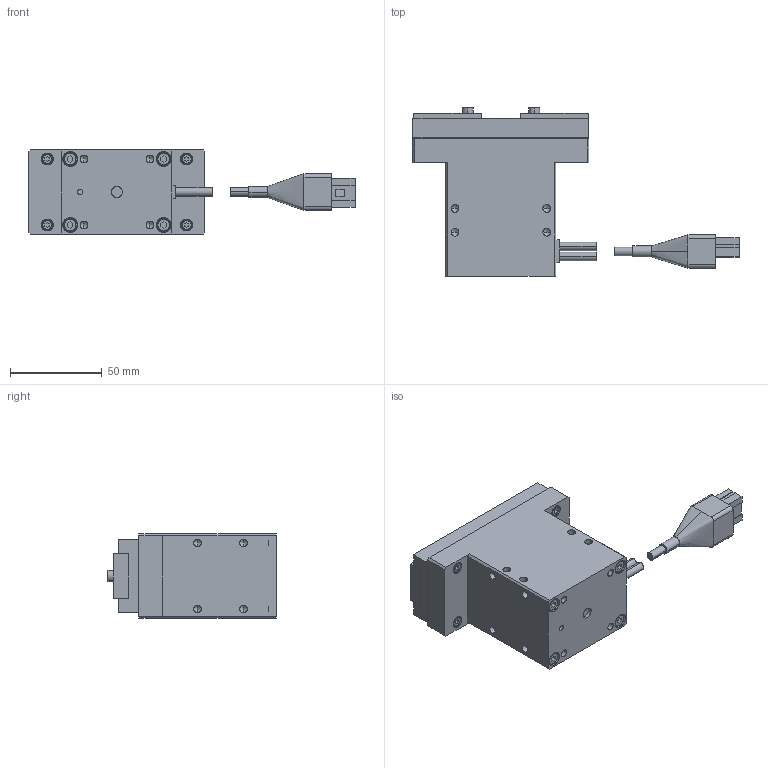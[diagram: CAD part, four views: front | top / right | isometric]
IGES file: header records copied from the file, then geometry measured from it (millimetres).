
Start section: SolidWorks IGES file using analytic representation for surfaces
Global section: file name: G:\SW2007図面\TAIYO\電動機器３Ｄ\電動グリッパ　２爪\ESG1-SD-4220.IGS; native system: SolidWorks 2007; preprocessor: SolidWorks 2007; author: 風音庵,,1; organization: 1; date: 090212.172431; units: millimetre
Bounding box: 177.89 x 92 x 46 mm (x, y, z)
Surface area: 47997.9 mm2 (no closed solid volume)
Topology: 0 solids, 0 shells, 418 faces, 4562 edges, 4522 vertices
Faces by surface type: bspline 246, revolution 172
